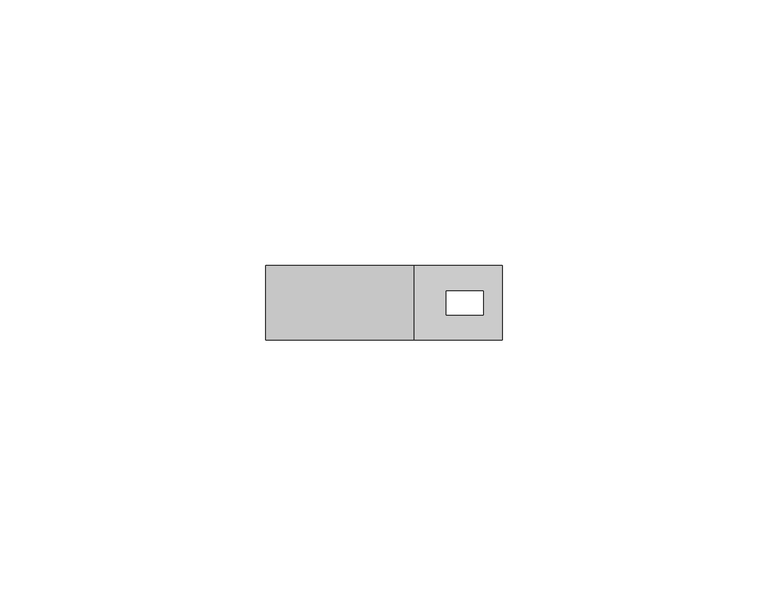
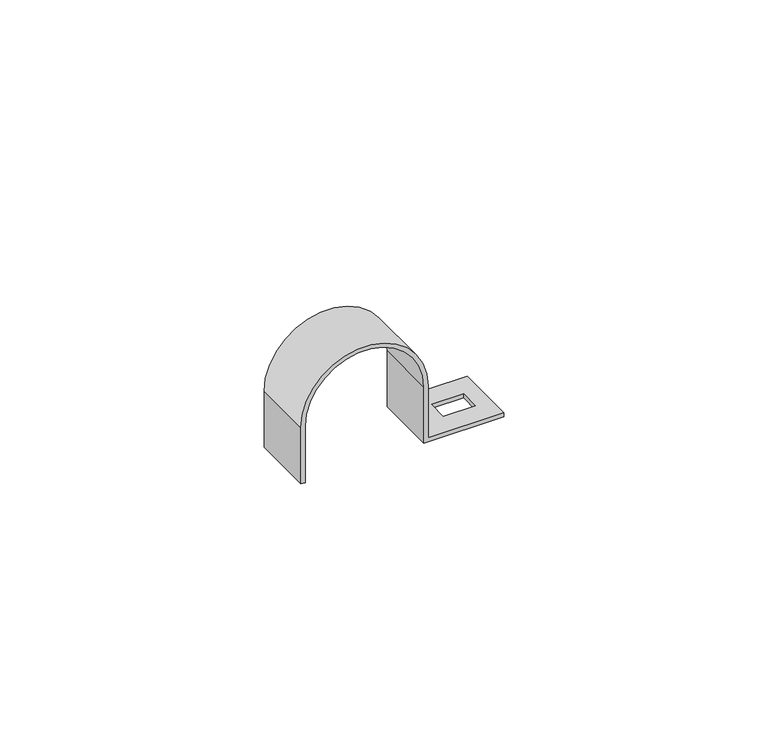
"""IFC4 building model written with IfcOpenShell, lengths in millimetres: cable carrier fitting geometry."""

from ifc_helpers import new_model, si_unit, frame, origin, place, context, project, spatial, polyline, circle_curve, source, transform, mapped, element, save
from ifc_brep_helpers import plane_surface, cylinder_surface, revolved_surface, advanced_brep


def cable_carrier_fitting_85cb3a9a(model_context):
    return source(origin(), model_context, "Body", "AdvancedBrep", [
        advanced_brep(
        [(30.5, -7.0, 0.0), (30.5, -7.0, 0.9), (13.9, -7.0, 0.9), (13.9, -7.0, 13.0), (-13.9, -7.0, 13.0), (-13.9, -7.0, 0.0), (-13.0, -7.0, 0.0), (-13.0, -7.0, 13.0), (13.0, -7.0, 13.0), (13.0, -7.0, 0.0), (30.5, 7.0, 0.0), (13.0, 7.0, 0.0), (13.0, 7.0, 13.0), (-13.0, 7.0, 13.0), (-13.0, 7.0, 0.0), (-13.9, 7.0, 0.0), (-13.9, 7.0, 13.0), (13.9, 7.0, 13.0), (13.9, 7.0, 0.9), (30.5, 7.0, 0.9), (27.0, -2.25, 0.9), (20.0, -2.25, 0.9), (20.0, 2.25, 0.9), (27.0, 2.25, 0.9), (20.0, -2.25, 0.0), (27.0, -2.25, 0.0), (27.0, 2.25, 0.0), (20.0, 2.25, 0.0)],
        [
            (0, 1),
            (1, 2),
            (2, 3),
            (3, 4, circle_curve(frame((0.0, -7.0, 13.0), z_axis=(0.0, -1.0, 0.0), x_axis=(1.0, 0.0, 0.0)), 13.9)),
            (4, 5),
            (5, 6),
            (6, 7),
            (7, 8, circle_curve(frame((0.0, -7.0, 13.0), z_axis=(0.0, 1.0, 0.0), x_axis=(1.0, 0.0, 0.0)), 13.0)),
            (8, 9),
            (9, 0),
            (10, 11),
            (11, 12),
            (12, 13, circle_curve(frame((0.0, 7.0, 13.0), z_axis=(0.0, -1.0, 0.0), x_axis=(1.0, 0.0, 0.0)), 13.0)),
            (13, 14),
            (14, 15),
            (15, 16),
            (16, 17, circle_curve(frame((0.0, 7.0, 13.0), z_axis=(0.0, 1.0, 0.0), x_axis=(1.0, 0.0, 0.0)), 13.9)),
            (17, 18),
            (18, 19),
            (19, 10),
            (0, 10),
            (19, 1),
            (18, 2),
            (20, 21),
            (21, 22),
            (22, 23),
            (23, 20),
            (17, 3),
            (16, 4),
            (15, 5),
            (14, 6),
            (13, 7),
            (12, 8),
            (11, 9),
            (24, 25),
            (25, 26),
            (26, 27),
            (27, 24),
            (24, 21),
            (20, 25),
            (23, 26),
            (22, 27),
        ],
        [
            plane_surface(frame((30.5, -7.0, 0.9), z_axis=(0.0, -1.0, 0.0), x_axis=(0.0, 0.0, 1.0))),
            plane_surface(frame((30.5, 7.0, 0.9), z_axis=(0.0, 1.0, 0.0), x_axis=(0.0, 0.0, -1.0))),
            plane_surface(frame((30.5, -7.0, 0.0), z_axis=(1.0, 0.0, 0.0), x_axis=(0.0, 1.0, 0.0))),
            plane_surface(frame((30.5, -7.0, 0.9), z_axis=(0.0, 0.0, 1.0), x_axis=(0.0, 1.0, 0.0))),
            plane_surface(frame((13.9, -7.0, 0.9), z_axis=(1.0, 0.0, 0.0), x_axis=(0.0, 1.0, 0.0))),
            cylinder_surface(frame((0.0, 7.0, 13.0), z_axis=(0.0, -1.0, 0.0), x_axis=(1.0, 0.0, 0.0)), 13.9),
            plane_surface(frame((-13.9, -7.0, 13.0), z_axis=(-1.0, 0.0, 0.0), x_axis=(0.0, 1.0, 0.0))),
            plane_surface(frame((-13.9, -7.0, 0.0), z_axis=(0.0, 0.0, -1.0), x_axis=(0.0, 1.0, 0.0))),
            plane_surface(frame((-13.0, -7.0, 0.0), z_axis=(1.0, 0.0, 0.0), x_axis=(0.0, 1.0, 0.0))),
            revolved_surface(polyline([(13.0, 7.0, 13.0), (13.0, -7.0, 13.0)]), (0.0, 7.0, 13.0), (0.0, 1.0, 0.0)),
            plane_surface(frame((13.0, -7.0, 13.0), z_axis=(-1.0, 0.0, 0.0), x_axis=(0.0, 1.0, 0.0))),
            plane_surface(frame((13.0, -7.0, 0.0), z_axis=(0.0, 0.0, -1.0), x_axis=(0.0, 1.0, 0.0))),
            plane_surface(frame((20.0, -2.25, 21.959409), z_axis=(0.0, 1.0, 0.0), x_axis=(0.0, 0.0, -1.0))),
            plane_surface(frame((27.0, -2.25, 21.959409), z_axis=(-1.0, 0.0, 0.0), x_axis=(0.0, 0.0, -1.0))),
            plane_surface(frame((27.0, 2.25, 21.959409), z_axis=(0.0, -1.0, 0.0), x_axis=(0.0, 0.0, -1.0))),
            plane_surface(frame((20.0, 2.25, 21.959409), z_axis=(1.0, 0.0, 0.0), x_axis=(0.0, 0.0, -1.0))),
        ],
        [
            (0, [[1, 2, 3, 4, 5, 6, 7, 8, 9, 10]]),
            (1, [[11, 12, 13, 14, 15, 16, 17, 18, 19, 20]]),
            (2, [[-1, 21, -20, 22]]),
            (3, [[-2, -22, -19, 23], [24, 25, 26, 27]]),
            (4, [[-3, -23, -18, 28]]),
            (5, [[-4, -28, -17, 29]]),
            (6, [[-5, -29, -16, 30]]),
            (7, [[-6, -30, -15, 31]]),
            (8, [[-7, -31, -14, 32]]),
            (9, [[-8, -32, -13, 33]]),
            (10, [[-9, -33, -12, 34]]),
            (11, [[-10, -34, -11, -21], [35, 36, 37, 38]]),
            (12, [[39, -24, 40, -35]]),
            (13, [[-40, -27, 41, -36]]),
            (14, [[-41, -26, 42, -37]]),
            (15, [[-39, -38, -42, -25]]),
        ],
    ),
    ])


if __name__ == "__main__":
    model = new_model("IFC4")
    model_context = context("Model", 3, world=origin())
    ifc_project = project(units=[si_unit("LENGTHUNIT", "METRE", prefix="MILLI")], contexts=[model_context])
    site = spatial("IfcSite", under=ifc_project)
    building = spatial("IfcBuilding", under=site)
    placement = place(None, origin())
    cable_carrier_fitting_shape = cable_carrier_fitting_85cb3a9a(model_context)
    element("IfcCableCarrierFitting", 1, at=placement, inside=building, context=model_context, shape_type="MappedRepresentation", body=[
        mapped(cable_carrier_fitting_shape, transform((0.0, 0.0, 0.0), x_axis=(1.0, 0.0, 0.0), y_axis=(0.0, 1.0, 0.0), z_axis=(0.0, 0.0, 1.0))),
    ])
    save(model, "model.ifc")
